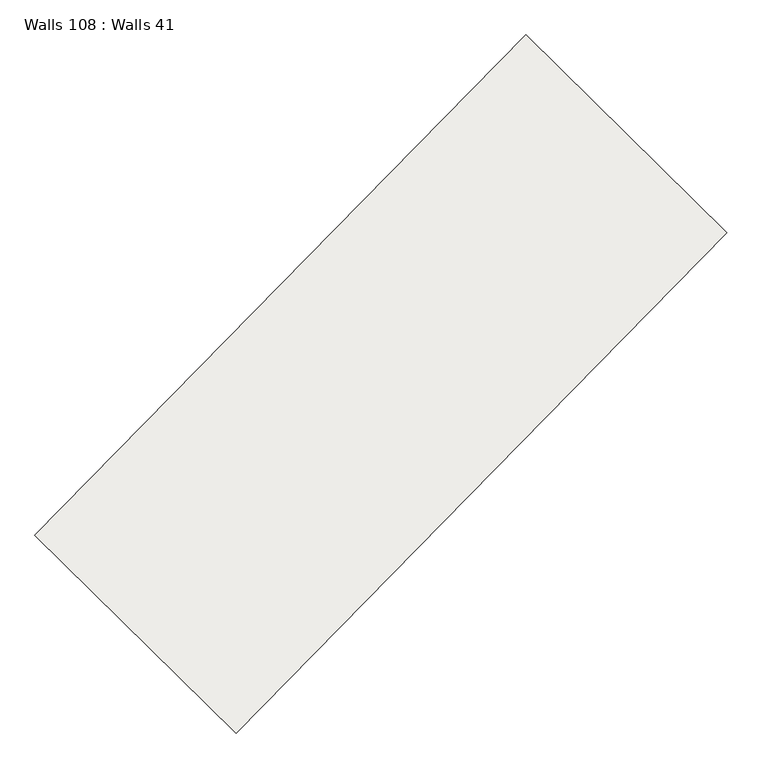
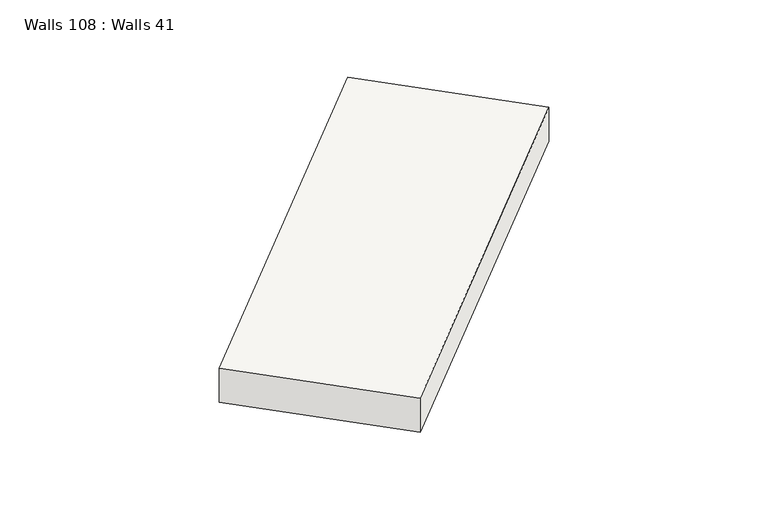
"""IFC4 building model written with IfcOpenShell, lengths in millimetres: slab geometry, Walls 108 : Walls 41."""

from ifc_helpers import new_model, si_unit, frame, origin, place, context, project, spatial, polyline, outline, extrude, source, transform, mapped, element, save


def walls_108_walls_41_1bd9e125(model_context):
    return source(origin(), model_context, "Body", "SweptSolid", [
        extrude(outline(polyline([(-350.0, 0.0), (350.0, 0.0), (260.0, -8699.9999994), (-440.0, -8699.9999994), (-350.0, 0.0)])), frame((-134080.9313067, -295833.2098212, 636500.0), z_axis=(-0.7137361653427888, 0.700414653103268, 0.0), x_axis=(0.0, 0.0, 1.0)), (0.0, 0.0, 1.0), 3499.999995),
    ])


if __name__ == "__main__":
    model = new_model("IFC4")
    model_context = context("Model", 3, world=origin())
    ifc_project = project(units=[si_unit("LENGTHUNIT", "METRE", prefix="MILLI")], contexts=[model_context])
    site = spatial("IfcSite", under=ifc_project)
    building = spatial("IfcBuilding", under=site)
    placement = place(None, origin())
    walls_108_walls_41_shape = walls_108_walls_41_1bd9e125(model_context)
    element("IfcSlab", 1, ObjectType="Walls 108 : Walls 41", at=placement, inside=building, context=model_context, shape_type="MappedRepresentation", body=[
        mapped(walls_108_walls_41_shape, transform((0.0, 0.0, 0.0), x_axis=(1.0, 0.0, 0.0), y_axis=(0.0, 1.0, 0.0), z_axis=(0.0, 0.0, 1.0))),
    ])
    save(model, "model.ifc")
